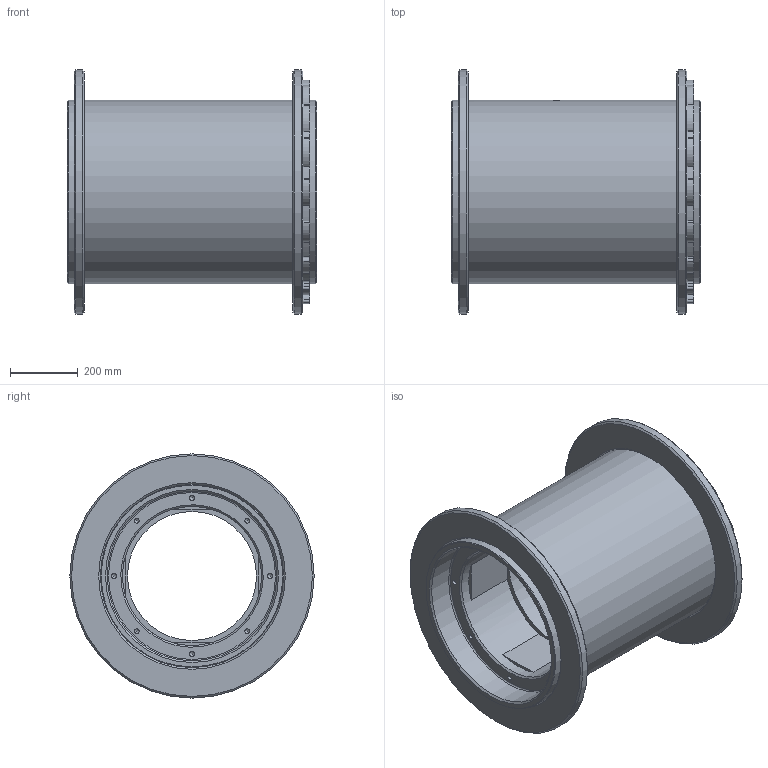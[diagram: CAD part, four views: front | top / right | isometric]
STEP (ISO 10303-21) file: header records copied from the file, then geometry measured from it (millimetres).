
FILE_DESCRIPTION(/* description */ (''),/* implementation_level */ '2;1');
FILE_NAME(/* name */ 'C:\Users\jbart\OneDrive\Plocha\Nová složka\3D modely - stp\Buben.stp',/* time_stamp */ '2025-05-15T16:47:11+02:00',/* author */ ('jbart'),/* organization */ (''),/* preprocessor_version */ 'ST-DEVELOPER v18.1',/* originating_system */ 'Autodesk Inventor 2022',/* authorisation */ '');
FILE_SCHEMA (('AUTOMOTIVE_DESIGN { 1 0 10303 214 3 1 1 }'));
Length unit declared in the file: millimetre
Products named in the file (4): Buben; Plášť bubnu; Bočnice - levá; Bočnice - pravá
Assembly tree (3 placements, depth 2):
  Buben
    Plášť bubnu
    Bočnice - levá
    Bočnice - pravá
Bounding box: 734 x 720 x 720 mm (x, y, z)
Volume: 71047879.1 mm3; surface area: 3476169.2 mm2
Topology: 3 solids, 3 shells, 184 faces, 499 edges, 327 vertices
Faces by surface type: cylinder 124, cone 30, plane 28, torus 2
Full cylindrical faces by diameter (mm): 13.835 x17, 26 x1, 380 x1, 410 x1, 420 x1, 500 x2, 540 x3, 720 x2
Entity records: 6080 total; most frequent: DIRECTION 1154, CARTESIAN_POINT 1070, ORIENTED_EDGE 966, AXIS2_PLACEMENT_3D 484, EDGE_CURVE 483, VERTEX_POINT 327, CIRCLE 293, EDGE_LOOP 214
